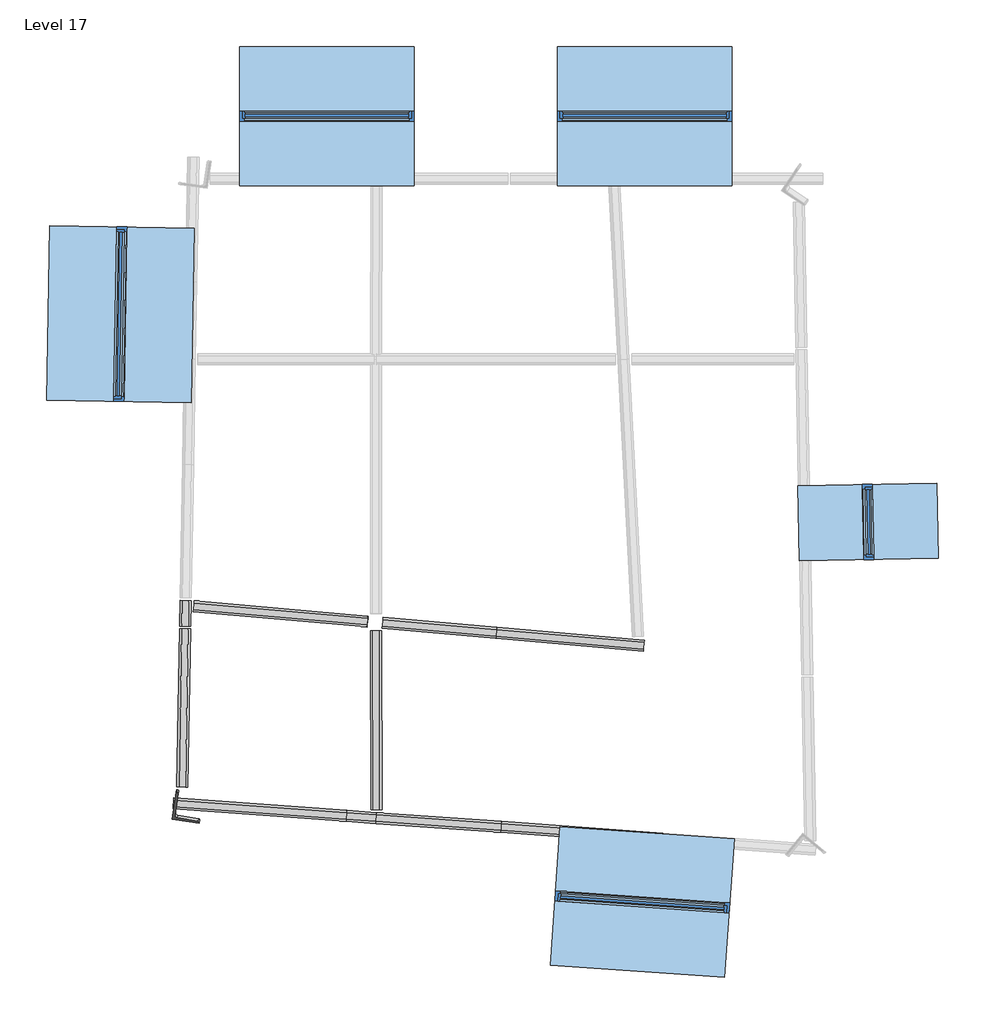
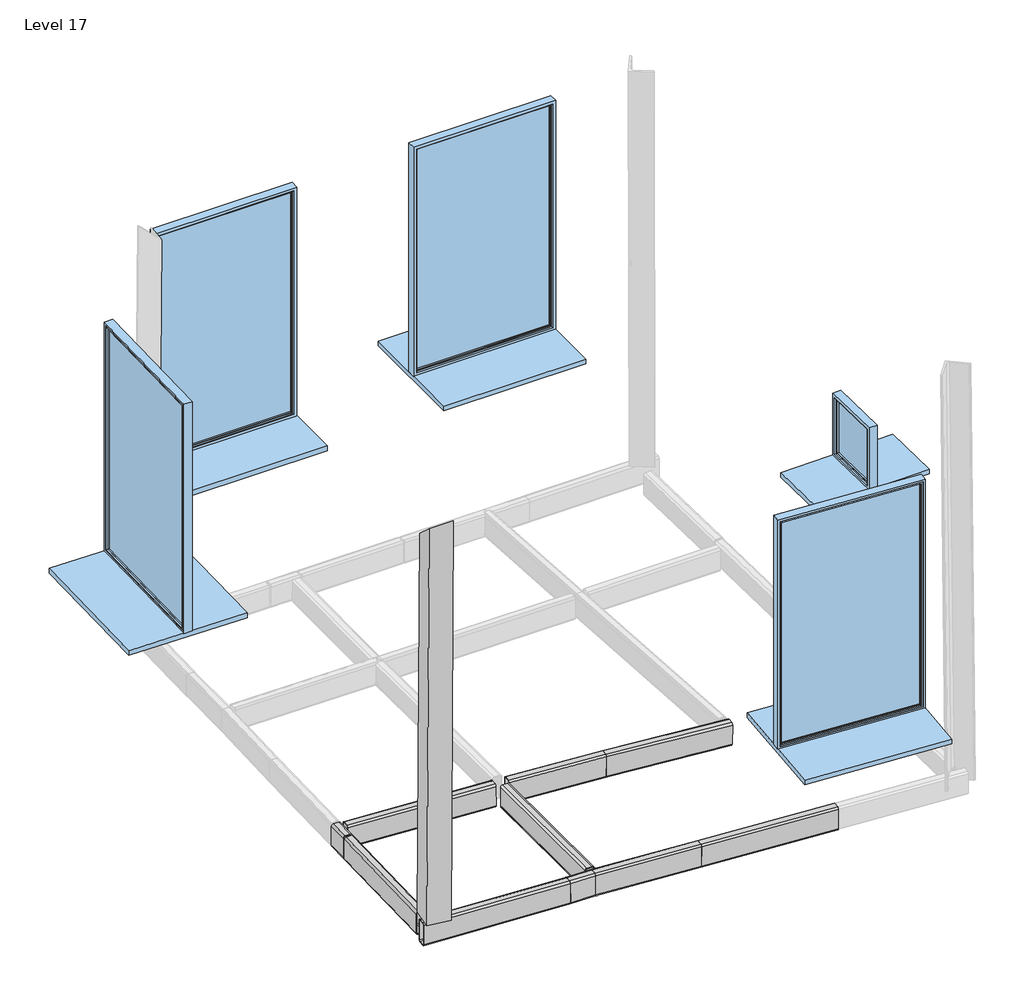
# One storey, part 1 of 3: 11 beams, 5 windows.
"""IFC4 building model written with IfcOpenShell, lengths in millimetres."""

from ifc_helpers import new_model, si_unit, point, frame, frame_2d, origin, place, context, project, spatial, polyline, circle_curve, ellipse_curve, trimmed, segment, composite_curve, outline, extrude, transform, mapped, element, save
from ifc_brep_helpers import plane_surface, cylinder_surface, revolved_surface, advanced_brep
from components import rectangular_and_square_hollow_sections_489ac4a4, rectangular_and_square_hollow_sections_62294a34, rectangular_and_square_hollow_sections_82481f7e, rectangular_and_square_hollow_sections_5330a2fb, rectangular_and_square_hollow_sections_e82c769e, rectangular_and_square_hollow_sections_2dbff78a, rectangular_and_square_hollow_sections_c000528f, finestra_semplice_3rd_window_0_95x1_62_2_eac4eb58, finestra_semplice_3rd_window_0_95x1_62_2_18a6eb5c, finestra_semplice_small_window_0_44x0_41_8847f569

model = new_model("IFC4")

# Units and contexts
model_context = context("Model", 3, world=origin())
ifc_project = project(units=[si_unit("LENGTHUNIT", "METRE", prefix="MILLI")], contexts=[model_context])

# Site, building, storey
site = spatial("IfcSite", under=ifc_project)
building = spatial("IfcBuilding", under=site)
storey = spatial("IfcBuildingStorey", under=building, Name="Level 17", Elevation=2886.4344134)

# Beams
placement = place(None, origin())
element("IfcBeam", 1, ObjectType="L ali uguali : L120x10", at=placement, inside=storey, context=model_context, shape_type="AdvancedBrep", body=[
    advanced_brep(
    [(-900.4703618, -1266.7579064, 2953.7996508), (-877.8577021, -1118.4835239, 2955.6367933), (-873.903422, -1119.0865734, 2955.6367933), (-867.2008703, -1128.2006394, 2955.5388123), (-884.3864917, -1240.8891702, 2954.142584), (-870.9813882, -1259.1173023, 2953.9466222), (-758.2844046, -1276.3042128, 2953.9466222), (-751.5818529, -1285.4182788, 2953.8486412), (-752.1848571, -1289.3722623, 2953.7996508), (-757.4428815, -1323.849866, 5801.1799678), (-905.6966723, -1301.0275576, 5784.005925), (-876.1936188, -1293.2946294, 5776.5281957), (-763.5207377, -1310.6395838, 5789.5804683), (-889.568673, -1274.8694601, 5760.4515636), (-872.1930531, -1160.9350827, 5658.9578328), (-882.8340146, -1151.1139031, 5650.4615423), (-756.8332106, -1319.8521685, 5797.6187843), (-878.8805802, -1151.722498, 5650.9195168)],
    [
        (0, 1),
        (1, 2),
        (2, 3, circle_curve(frame((-875.1094305, -1126.9945404, 2955.5388123), z_axis=(0.0018464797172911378, 0.012107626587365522, -0.9999249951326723), x_axis=(0.9885700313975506, -0.15076237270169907, 0.0)), 8.0)),
        (3, 4),
        (4, 5, circle_curve(frame((-868.5693712, -1243.3013681, 2954.142584), z_axis=(-0.0018464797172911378, -0.012107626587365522, 0.9999249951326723), x_axis=(0.9885700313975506, -0.15076237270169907, 0.0)), 16.0)),
        (5, 6),
        (6, 7, circle_curve(frame((-759.4904131, -1284.2121798, 2953.8486412), z_axis=(0.0018464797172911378, 0.012107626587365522, -0.9999249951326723), x_axis=(0.9885700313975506, -0.15076237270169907, 0.0)), 8.0)),
        (7, 8),
        (8, 0),
        (9, 10),
        (10, 0),
        (8, 9),
        (11, 12),
        (12, 6),
        (5, 11),
        (13, 11, ellipse_curve(frame((-873.7549353, -1277.3038396, 5762.2834615), z_axis=(0.015554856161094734, 0.6637600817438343, 0.7477837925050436), x_axis=(0.01983990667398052, 0.7475221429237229, -0.6639405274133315)), 21.6314896, 16.0)),
        (4, 13),
        (14, 13),
        (3, 14),
        (10, 15),
        (15, 1),
        (16, 9),
        (7, 16),
        (12, 16, ellipse_curve(frame((-764.7400795, -1318.6349787, 5796.7028353), z_axis=(-0.015554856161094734, -0.6637600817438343, -0.7477837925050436), x_axis=(-0.01983990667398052, -0.7475221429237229, 0.6639405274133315)), 10.8157448, 8.0)),
        (17, 14, ellipse_curve(frame((-880.0999219, -1159.7178929, 5658.0418839), z_axis=(-0.015554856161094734, -0.6637600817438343, -0.7477837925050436), x_axis=(-0.01983990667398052, -0.7475221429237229, 0.6639405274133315)), 10.8157448, 8.0)),
        (2, 17),
        (15, 17),
    ],
    [
        plane_surface(frame((-853.5303327, -1232.2432858, 2954.3042526), z_axis=(0.0018464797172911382, 0.012107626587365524, -0.9999249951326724), x_axis=(0.15075106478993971, 0.9884958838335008, 0.012247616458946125))),
        plane_surface(frame((-905.5875111, -1300.311772, 5724.8917898), z_axis=(-0.15075106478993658, -0.9884958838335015, -0.012247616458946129), x_axis=(0.0018464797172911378, 0.012107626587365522, -0.9999249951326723))),
        plane_surface(frame((-763.4015538, -1309.8580783, 5725.0387612), z_axis=(0.15075106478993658, 0.9884958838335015, 0.012247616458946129), x_axis=(0.0018464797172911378, 0.012107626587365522, -0.9999249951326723))),
        revolved_surface(polyline([(-852.7522506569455, -1245.713566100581, 2954.1425839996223), (-857.964694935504, -1279.892294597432, 5776.839887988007)]), (-873.6865204, -1276.8552337, 5725.2347231), (0.0018464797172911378, 0.012107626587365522, -0.9999249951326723)),
        plane_surface(frame((-889.5036409, -1274.4430357, 5725.2347231), z_axis=(0.9885700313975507, -0.1507623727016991, 0.0), x_axis=(0.0018464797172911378, 0.012107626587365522, -0.9999249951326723))),
        plane_surface(frame((-882.9748514, -1152.0373894, 5726.7289323), z_axis=(-0.9885700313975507, 0.1507623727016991, 0.0), x_axis=(0.0018464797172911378, 0.012107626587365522, -0.9999249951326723))),
        plane_surface(frame((-757.3020064, -1322.9261279, 5724.8917898), z_axis=(0.9885700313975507, -0.1507623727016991, 0.0), x_axis=(0.0018464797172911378, 0.012107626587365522, -0.9999249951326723))),
        cylinder_surface(frame((-764.6075624, -1317.7660454, 5724.9407803), z_axis=(-0.0018464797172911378, -0.012107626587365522, 0.9999249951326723), x_axis=(0.9885700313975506, -0.15076237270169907, 0.0)), 8.0),
        cylinder_surface(frame((-880.2265798, -1160.548406, 5726.6309513), z_axis=(-0.0018464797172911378, -0.012107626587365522, 0.9999249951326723), x_axis=(0.9885700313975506, -0.15076237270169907, 0.0)), 8.0),
        plane_surface(frame((-879.0205712, -1152.6404389, 5726.7289323), z_axis=(0.15075106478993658, 0.9884958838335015, 0.012247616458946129), x_axis=(0.0018464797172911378, 0.012107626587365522, -0.9999249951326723))),
        plane_surface(frame((-851.4101687, -1151.9048872, 5650.5099925), z_axis=(0.015554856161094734, 0.6637600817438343, 0.7477837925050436), x_axis=(0.9998790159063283, -0.010325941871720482, -0.011633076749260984))),
    ],
    [
        (0, [[1, 2, 3, 4, 5, 6, 7, 8, 9]]),
        (1, [[10, 11, -9, 12]]),
        (2, [[13, 14, -6, 15]]),
        (3, [[16, -15, -5, 17]]),
        (4, [[18, -17, -4, 19]]),
        (5, [[20, 21, -1, -11]]),
        (6, [[22, -12, -8, 23]]),
        (7, [[24, -23, -7, -14]]),
        (8, [[25, -19, -3, 26]]),
        (9, [[27, -26, -2, -21]]),
        (10, [[-10, -22, -24, -13, -16, -18, -25, -27, -20]]),
    ],
),
])
element("IfcBeam", 2, ObjectType="Rectangular and Square Hollow Sections : TREC160x60x6", at=placement, inside=storey, context=model_context, shape_type="AdvancedBrep", body=[
    advanced_brep(
    [(890.9382495, -1292.3459513, 2937.2240204), (890.1461606, -1304.3199654, 2949.2238364), (887.5710113, -1340.2277445, 2949.2238364), (886.646334, -1352.1922499, 2937.2240204), (885.8950004, -1352.1383676, 2801.2261065), (886.6870894, -1340.1643535, 2789.2262906), (889.2622387, -1304.2565743, 2789.2262906), (890.1869159, -1292.2920689, 2801.2261065), (887.5378642, -1340.2253674, 2943.2239284), (890.1130135, -1304.3175882, 2943.2239284), (890.509058, -1298.3305812, 2937.2240204), (889.7577244, -1298.2766988, 2801.2261065), (889.2953858, -1304.2589515, 2795.2261985), (886.7202365, -1340.1667307, 2795.2261985), (886.324192, -1346.1537377, 2801.2261065), (887.0755256, -1346.2076201, 2937.2240204), (211.6806005, -1243.6325554, 2940.995945), (210.6657061, -1255.5905908, 2952.9969982), (208.0905568, -1291.49837, 2952.9969982), (207.3886851, -1303.478854, 2940.995945), (209.1624803, -1303.6060629, 2804.984009), (210.1773747, -1291.6480275, 2792.9829558), (212.752524, -1255.7402483, 2792.9829558), (213.4543957, -1243.7597642, 2804.984009), (208.1688125, -1291.5039821, 2946.9964716), (210.7439618, -1255.5962029, 2946.9964716), (211.251409, -1249.6171852, 2940.995945), (213.0252042, -1249.7443941, 2804.984009), (212.6742683, -1255.7346361, 2798.9834824), (210.099119, -1291.6424153, 2798.9834824), (209.5916718, -1297.621433, 2804.984009), (207.8178766, -1297.4942242, 2940.995945)],
    [
        (0, 1, circle_curve(frame((890.0798664, -1304.315211, 2937.2240204), z_axis=(0.9974230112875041, -0.07153082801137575, -0.0055387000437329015), x_axis=(-0.0715319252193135, -0.9974383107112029, 0.0)), 12.0)),
        (1, 2),
        (2, 3, circle_curve(frame((887.5047171, -1340.2229902, 2937.2240204), z_axis=(0.9974230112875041, -0.07153082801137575, -0.0055387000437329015), x_axis=(-0.0715319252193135, -0.9974383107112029, 0.0)), 12.0)),
        (3, 4),
        (4, 5, circle_curve(frame((886.7533835, -1340.1691079, 2801.2261065), z_axis=(0.9974230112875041, -0.07153082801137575, -0.0055387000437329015), x_axis=(-0.0715319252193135, -0.9974383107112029, 0.0)), 12.0)),
        (5, 6),
        (6, 7, circle_curve(frame((889.3285328, -1304.2613287, 2801.2261065), z_axis=(0.9974230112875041, -0.07153082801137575, -0.0055387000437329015), x_axis=(-0.0715319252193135, -0.9974383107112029, 0.0)), 12.0)),
        (7, 0),
        (8, 9),
        (9, 10, circle_curve(frame((890.0798664, -1304.315211, 2937.2240204), z_axis=(-0.9974230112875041, 0.07153082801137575, 0.0055387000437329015), x_axis=(-0.0715319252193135, -0.9974383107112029, 0.0)), 6.0)),
        (10, 11),
        (11, 12, circle_curve(frame((889.3285328, -1304.2613287, 2801.2261065), z_axis=(-0.9974230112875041, 0.07153082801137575, 0.0055387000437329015), x_axis=(-0.0715319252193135, -0.9974383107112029, 0.0)), 6.0)),
        (12, 13),
        (13, 14, circle_curve(frame((886.7533835, -1340.1691079, 2801.2261065), z_axis=(-0.9974230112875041, 0.07153082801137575, 0.0055387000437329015), x_axis=(-0.0715319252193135, -0.9974383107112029, 0.0)), 6.0)),
        (14, 15),
        (15, 8, circle_curve(frame((887.5047171, -1340.2229902, 2937.2240204), z_axis=(-0.9974230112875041, 0.07153082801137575, 0.0055387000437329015), x_axis=(-0.0715319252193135, -0.9974383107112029, 0.0)), 6.0)),
        (0, 16),
        (16, 17, ellipse_curve(frame((210.8222174, -1255.6018151, 2940.995945), z_axis=(0.9973530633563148, -0.07152581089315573, 0.013073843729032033), x_axis=(0.013040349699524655, -0.0009352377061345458, -0.9999145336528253)), 12.002079, 12.0)),
        (17, 1),
        (17, 18),
        (18, 2),
        (18, 19, ellipse_curve(frame((208.2470682, -1291.5095943, 2940.995945), z_axis=(0.9973530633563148, -0.07152581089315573, 0.013073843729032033), x_axis=(0.013040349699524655, -0.0009352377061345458, -0.9999145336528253)), 12.002079, 12.0)),
        (19, 3),
        (19, 20),
        (20, 4),
        (20, 21, ellipse_curve(frame((210.0208634, -1291.6368031, 2804.984009), z_axis=(0.9973530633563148, -0.07152581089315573, 0.013073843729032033), x_axis=(0.013040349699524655, -0.0009352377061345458, -0.9999145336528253)), 12.002079, 12.0)),
        (21, 5),
        (21, 22),
        (22, 6),
        (22, 23, ellipse_curve(frame((212.5960127, -1255.729024, 2804.984009), z_axis=(0.9973530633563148, -0.07152581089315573, 0.013073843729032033), x_axis=(0.013040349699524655, -0.0009352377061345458, -0.9999145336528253)), 12.002079, 12.0)),
        (23, 7),
        (23, 16),
        (8, 24),
        (24, 25),
        (25, 9),
        (25, 26, ellipse_curve(frame((210.8222174, -1255.6018151, 2940.995945), z_axis=(-0.9973530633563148, 0.07152581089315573, -0.013073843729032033), x_axis=(-0.013040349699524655, 0.0009352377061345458, 0.9999145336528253)), 6.0010395, 6.0)),
        (26, 10),
        (26, 27),
        (27, 11),
        (27, 28, ellipse_curve(frame((212.5960127, -1255.729024, 2804.984009), z_axis=(-0.9973530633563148, 0.07152581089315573, -0.013073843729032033), x_axis=(-0.013040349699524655, 0.0009352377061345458, 0.9999145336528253)), 6.0010395, 6.0)),
        (28, 12),
        (28, 29),
        (29, 13),
        (29, 30, ellipse_curve(frame((210.0208634, -1291.6368031, 2804.984009), z_axis=(-0.9973530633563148, 0.07152581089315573, -0.013073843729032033), x_axis=(-0.013040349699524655, 0.0009352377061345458, 0.9999145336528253)), 6.0010395, 6.0)),
        (30, 14),
        (30, 31),
        (31, 15),
        (31, 24, ellipse_curve(frame((208.2470682, -1291.5095943, 2940.995945), z_axis=(-0.9973530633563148, 0.07152581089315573, -0.013073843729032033), x_axis=(-0.013040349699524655, 0.0009352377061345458, 0.9999145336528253)), 6.0010395, 6.0)),
    ],
    [
        plane_surface(frame((888.416625, -1322.2421594, 2869.2250635), z_axis=(0.9974230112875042, -0.07153082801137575, -0.005538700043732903), x_axis=(0.005524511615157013, -0.00039619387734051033, 0.9999846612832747))),
        cylinder_surface(frame((890.0798664, -1304.315211, 2937.2240204), z_axis=(0.9974230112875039, -0.07153082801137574, -0.005538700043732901), x_axis=(-0.0715319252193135, -0.9974383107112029, 0.0)), 12.0),
        plane_surface(frame((890.1461606, -1304.3199654, 2949.2238364), z_axis=(0.005524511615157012, -0.0003961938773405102, 0.9999846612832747), x_axis=(-0.9974230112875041, 0.07153082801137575, 0.0055387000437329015))),
        cylinder_surface(frame((887.5047171, -1340.2229902, 2937.2240204), z_axis=(0.9974230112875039, -0.07153082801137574, -0.005538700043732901), x_axis=(-0.0715319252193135, -0.9974383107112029, 0.0)), 12.0),
        plane_surface(frame((886.646334, -1352.1922499, 2937.2240204), z_axis=(-0.07153192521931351, -0.9974383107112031, 0.0), x_axis=(-0.9974230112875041, 0.07153082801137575, 0.0055387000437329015))),
        cylinder_surface(frame((886.7533835, -1340.1691079, 2801.2261065), z_axis=(0.9974230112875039, -0.07153082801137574, -0.005538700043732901), x_axis=(-0.0715319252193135, -0.9974383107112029, 0.0)), 12.0),
        plane_surface(frame((886.6870894, -1340.1643535, 2789.2262906), z_axis=(-0.005524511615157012, 0.0003961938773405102, -0.9999846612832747), x_axis=(-0.9974230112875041, 0.07153082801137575, 0.0055387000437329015))),
        cylinder_surface(frame((889.3285328, -1304.2613287, 2801.2261065), z_axis=(0.9974230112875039, -0.07153082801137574, -0.005538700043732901), x_axis=(-0.0715319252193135, -0.9974383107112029, 0.0)), 12.0),
        plane_surface(frame((890.1869159, -1292.2920689, 2801.2261065), z_axis=(0.07153192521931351, 0.9974383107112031, 0.0), x_axis=(-0.9974230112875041, 0.07153082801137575, 0.0055387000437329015))),
        plane_surface(frame((887.5378642, -1340.2253674, 2943.2239284), z_axis=(-0.005524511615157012, 0.0003961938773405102, -0.9999846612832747), x_axis=(-0.9974230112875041, 0.07153082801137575, 0.0055387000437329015))),
        revolved_surface(polyline([(210.28162311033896, -1261.5784556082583, 2940.996563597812), (889.6506749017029, -1310.2998408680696, 2937.2240203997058)]), (890.0798664, -1304.315211, 2937.2240204), (-0.9974230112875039, 0.07153082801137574, 0.005538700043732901)),
        plane_surface(frame((890.509058, -1298.3305812, 2937.2240204), z_axis=(-0.07153192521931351, -0.9974383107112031, 0.0), x_axis=(-0.9974230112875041, 0.07153082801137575, 0.0055387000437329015))),
        revolved_surface(polyline([(212.05541840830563, -1261.7056645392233, 2804.984627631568), (888.8993413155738, -1310.2459585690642, 2801.2261064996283)]), (889.3285328, -1304.2613287, 2801.2261065), (-0.9974230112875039, 0.07153082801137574, 0.005538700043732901)),
        plane_surface(frame((889.2953858, -1304.2589515, 2795.2261985), z_axis=(0.005524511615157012, -0.0003961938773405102, 0.9999846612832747), x_axis=(-0.9974230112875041, 0.07153082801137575, 0.0055387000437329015))),
        revolved_surface(polyline([(209.48026910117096, -1297.6134437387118, 2804.9846276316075), (886.3241920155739, -1346.1537377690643, 2801.2261064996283)]), (886.7533835, -1340.1691079, 2801.2261065), (-0.9974230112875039, 0.07153082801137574, 0.005538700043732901)),
        plane_surface(frame((886.324192, -1346.1537377, 2801.2261065), z_axis=(0.07153192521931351, 0.9974383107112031, 0.0), x_axis=(-0.9974230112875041, 0.07153082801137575, 0.0055387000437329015))),
        revolved_surface(polyline([(207.7064738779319, -1297.4862348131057, 2940.9965635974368), (887.0755256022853, -1346.207620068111, 2937.224020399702)]), (887.5047171, -1340.2229902, 2937.2240204), (-0.9974230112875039, 0.07153082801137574, 0.005538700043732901)),
        plane_surface(frame((211.4649491, -1273.6941411, 2792.9829546), z_axis=(-0.997353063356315, 0.07152581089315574, -0.013073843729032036), x_axis=(0.07271084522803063, 0.9810982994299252, -0.17933003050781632))),
    ],
    [
        (0, [[1, 2, 3, 4, 5, 6, 7, 8], [9, 10, 11, 12, 13, 14, 15, 16]]),
        (1, [[-1, 17, 18, 19]]),
        (2, [[-2, -19, 20, 21]]),
        (3, [[-3, -21, 22, 23]]),
        (4, [[-4, -23, 24, 25]]),
        (5, [[-5, -25, 26, 27]]),
        (6, [[-6, -27, 28, 29]]),
        (7, [[-7, -29, 30, 31]]),
        (8, [[-8, -31, 32, -17]]),
        (9, [[-9, 33, 34, 35]]),
        (10, [[-10, -35, 36, 37]]),
        (11, [[-11, -37, 38, 39]]),
        (12, [[-12, -39, 40, 41]]),
        (13, [[-13, -41, 42, 43]]),
        (14, [[-14, -43, 44, 45]]),
        (15, [[-15, -45, 46, 47]]),
        (16, [[-16, -47, 48, -33]]),
        (17, [[-32, -30, -28, -26, -24, -22, -20, -18], [-48, -46, -44, -42, -40, -38, -36, -34]]),
    ],
),
])
element("IfcBeam", 3, ObjectType="Rectangular and Square Hollow Sections : TREC160x60x6", at=placement, inside=storey, context=model_context, shape_type="SweptSolid", body=[
    extrude(outline(composite_curve([segment(trimmed(circle_curve(frame_2d((23.2337653, -66.3942178)), 12.0), [point((35.1974223, -65.4609919))], [point((24.1669912, -78.3578748))], False, "CARTESIAN"), True, "CONTINUOUS"), segment(polyline([(24.1669912, -78.3578748), (-11.7239799, -81.1575523)]), True, "CONTINUOUS"), segment(trimmed(circle_curve(frame_2d((-12.6572058, -69.1938953)), 12.0), [point((-11.7239799, -81.1575523))], [point((-24.6208628, -70.1271212))], False, "CARTESIAN"), True, "CONTINUOUS"), segment(polyline([(-24.6208628, -70.1271212), (-35.1974224, 65.4609919)]), True, "CONTINUOUS"), segment(trimmed(circle_curve(frame_2d((-23.2337654, 66.3942178)), 12.0), [point((-35.1974224, 65.4609919))], [point((-24.1669912, 78.3578748))], False, "CARTESIAN"), True, "CONTINUOUS"), segment(polyline([(-24.1669912, 78.3578748), (11.7239799, 81.1575523)]), True, "CONTINUOUS"), segment(trimmed(circle_curve(frame_2d((12.6572057, 69.1938953)), 12.0), [point((11.7239799, 81.1575523))], [point((24.6208628, 70.1271212))], False, "CARTESIAN"), True, "CONTINUOUS"), segment(polyline([(24.6208628, 70.1271212), (35.1974223, -65.4609919)]), True, "CONTINUOUS")], self_intersect=False), holes=[composite_curve([segment(polyline([(-12.1905929, -75.1757238), (23.7003782, -72.3760463)]), True, "CONTINUOUS"), segment(trimmed(circle_curve(frame_2d((23.2337653, -66.3942178)), 6.0), [point((23.7003782, -72.3760463))], [point((29.2155939, -65.9276048))], True, "CARTESIAN"), True, "CONTINUOUS"), segment(polyline([(29.2155939, -65.9276048), (18.6390342, 69.6605082)]), True, "CONTINUOUS"), segment(trimmed(circle_curve(frame_2d((12.6572057, 69.1938953)), 6.0), [point((18.6390342, 69.6605082))], [point((12.1905928, 75.1757238))], True, "CARTESIAN"), True, "CONTINUOUS"), segment(polyline([(12.1905928, 75.1757238), (-23.7003783, 72.3760463)]), True, "CONTINUOUS"), segment(trimmed(circle_curve(frame_2d((-23.2337654, 66.3942178)), 6.0), [point((-23.7003783, 72.3760463))], [point((-29.2155939, 65.9276048))], True, "CARTESIAN"), True, "CONTINUOUS"), segment(polyline([(-29.2155939, 65.9276048), (-18.6390342, -69.6605082)]), True, "CONTINUOUS"), segment(trimmed(circle_curve(frame_2d((-12.6572058, -69.1938953)), 6.0), [point((-18.6390342, -69.6605082))], [point((-12.1905929, -75.1757238))], True, "CARTESIAN"), True, "CONTINUOUS")], self_intersect=False)]), frame((1768.8794504, -1385.3851131, 2864.286146), z_axis=(-0.9974227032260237, 0.07153080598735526, 0.005594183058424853), x_axis=(0.07174922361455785, 0.9943863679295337, 0.07776760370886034)), (0.0, 0.0, 1.0), 882.3575288),
])
element("IfcBeam", 4, ObjectType="Rectangular and Square Hollow Sections : TREC160x60x6", at=placement, inside=storey, context=model_context, shape_type="AdvancedBrep", body=[
    advanced_brep(
    [(210.6657061, -1255.5905908, 2952.9969982), (211.6806005, -1243.6325554, 2940.995945), (48.4540454, -1231.926659, 2935.8087392), (47.359416, -1243.8789762, 2947.8072584), (208.0905568, -1291.49837, 2952.9969982), (44.7842667, -1279.7867554, 2947.8072584), (207.3886851, -1303.478854, 2940.995945), (44.1621299, -1291.7729577, 2935.8087392), (209.1624803, -1303.6060629, 2804.984009), (46.8395874, -1291.9649732, 2799.8255208), (210.1773747, -1291.6480275, 2792.9829558), (47.9342168, -1280.0126561, 2787.8270016), (212.752524, -1255.7402483, 2792.9829558), (50.5093661, -1244.1048769, 2787.8270016), (213.4543957, -1243.7597642, 2804.984009), (51.1315029, -1232.1186746, 2799.8255208), (210.7439618, -1255.5962029, 2946.9964716), (208.1688125, -1291.5039821, 2946.9964716), (44.9023899, -1279.7952267, 2941.8079988), (47.4775392, -1243.8874475, 2941.8079988), (211.251409, -1249.6171852, 2940.995945), (48.0248538, -1237.9112889, 2935.8087392), (213.0252042, -1249.7443941, 2804.984009), (50.7023114, -1238.1033044, 2799.8255208), (212.6742683, -1255.7346361, 2798.9834824), (50.391243, -1244.0964056, 2793.8262612), (210.099119, -1291.6424153, 2798.9834824), (47.8160937, -1280.0041848, 2793.8262612), (209.5916718, -1297.621433, 2804.984009), (47.268779, -1285.9803434, 2799.8255208), (207.8178766, -1297.4942242, 2940.995945), (44.5913214, -1285.7883278, 2935.8087392)],
    [
        (0, 1, ellipse_curve(frame((210.8222174, -1255.6018151, 2940.995945), z_axis=(-0.9973530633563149, 0.07152581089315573, -0.013073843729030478), x_axis=(-0.013040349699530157, 0.0009352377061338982, 0.9999145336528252)), 12.002079, 12.0)),
        (1, 2),
        (2, 3, ellipse_curve(frame((47.5956623, -1243.8959187, 2935.8087392), z_axis=(0.9972440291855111, -0.07151799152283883, 0.019736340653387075), x_axis=(-0.019685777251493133, 0.0014118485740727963, 0.9998052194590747)), 12.0008568, 12.0)),
        (3, 0),
        (4, 0),
        (3, 5),
        (5, 4),
        (6, 4, ellipse_curve(frame((208.2470682, -1291.5095943, 2940.995945), z_axis=(-0.9973530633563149, 0.07152581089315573, -0.013073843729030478), x_axis=(-0.013040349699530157, 0.0009352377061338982, 0.9999145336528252)), 12.002079, 12.0)),
        (5, 7, ellipse_curve(frame((45.020513, -1279.8036979, 2935.8087392), z_axis=(0.9972440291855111, -0.07151799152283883, 0.019736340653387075), x_axis=(-0.019685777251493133, 0.0014118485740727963, 0.9998052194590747)), 12.0008568, 12.0)),
        (7, 6),
        (8, 6),
        (7, 9),
        (9, 8),
        (10, 8, ellipse_curve(frame((210.0208634, -1291.6368031, 2804.984009), z_axis=(-0.9973530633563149, 0.07152581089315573, -0.013073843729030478), x_axis=(-0.013040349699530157, 0.0009352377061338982, 0.9999145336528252)), 12.002079, 12.0)),
        (9, 11, ellipse_curve(frame((47.6979705, -1279.9957135, 2799.8255208), z_axis=(0.9972440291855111, -0.07151799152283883, 0.019736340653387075), x_axis=(-0.019685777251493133, 0.0014118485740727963, 0.9998052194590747)), 12.0008568, 12.0)),
        (11, 10),
        (12, 10),
        (11, 13),
        (13, 12),
        (14, 12, ellipse_curve(frame((212.5960127, -1255.729024, 2804.984009), z_axis=(-0.9973530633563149, 0.07152581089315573, -0.013073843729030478), x_axis=(-0.013040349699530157, 0.0009352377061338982, 0.9999145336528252)), 12.002079, 12.0)),
        (13, 15, ellipse_curve(frame((50.2731198, -1244.0879343, 2799.8255208), z_axis=(0.9972440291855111, -0.07151799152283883, 0.019736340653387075), x_axis=(-0.019685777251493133, 0.0014118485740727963, 0.9998052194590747)), 12.0008568, 12.0)),
        (15, 14),
        (1, 14),
        (15, 2),
        (16, 17),
        (17, 18),
        (18, 19),
        (19, 16),
        (20, 16, ellipse_curve(frame((210.8222174, -1255.6018151, 2940.995945), z_axis=(0.9973530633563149, -0.07152581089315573, 0.013073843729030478), x_axis=(0.013040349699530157, -0.0009352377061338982, -0.9999145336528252)), 6.0010395, 6.0)),
        (19, 21, ellipse_curve(frame((47.5956623, -1243.8959187, 2935.8087392), z_axis=(-0.9972440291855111, 0.07151799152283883, -0.019736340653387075), x_axis=(0.019685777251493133, -0.0014118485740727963, -0.9998052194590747)), 6.0004284, 6.0)),
        (21, 20),
        (22, 20),
        (21, 23),
        (23, 22),
        (24, 22, ellipse_curve(frame((212.5960127, -1255.729024, 2804.984009), z_axis=(0.9973530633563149, -0.07152581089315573, 0.013073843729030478), x_axis=(0.013040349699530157, -0.0009352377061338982, -0.9999145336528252)), 6.0010395, 6.0)),
        (23, 25, ellipse_curve(frame((50.2731198, -1244.0879343, 2799.8255208), z_axis=(-0.9972440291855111, 0.07151799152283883, -0.019736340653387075), x_axis=(0.019685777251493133, -0.0014118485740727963, -0.9998052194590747)), 6.0004284, 6.0)),
        (25, 24),
        (26, 24),
        (25, 27),
        (27, 26),
        (28, 26, ellipse_curve(frame((210.0208634, -1291.6368031, 2804.984009), z_axis=(0.9973530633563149, -0.07152581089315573, 0.013073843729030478), x_axis=(0.013040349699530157, -0.0009352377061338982, -0.9999145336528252)), 6.0010395, 6.0)),
        (27, 29, ellipse_curve(frame((47.6979705, -1279.9957135, 2799.8255208), z_axis=(-0.9972440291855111, 0.07151799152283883, -0.019736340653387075), x_axis=(0.019685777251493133, -0.0014118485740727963, -0.9998052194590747)), 6.0004284, 6.0)),
        (29, 28),
        (30, 28),
        (29, 31),
        (31, 30),
        (17, 30, ellipse_curve(frame((208.2470682, -1291.5095943, 2940.995945), z_axis=(0.9973530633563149, -0.07152581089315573, 0.013073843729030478), x_axis=(0.013040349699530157, -0.0009352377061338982, -0.9999145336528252)), 6.0010395, 6.0)),
        (31, 18, ellipse_curve(frame((45.020513, -1279.8036979, 2935.8087392), z_axis=(-0.9972440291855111, 0.07151799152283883, -0.019736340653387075), x_axis=(0.019685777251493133, -0.0014118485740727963, -0.9998052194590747)), 6.0004284, 6.0)),
    ],
    [
        cylinder_surface(frame((209.42332, -1255.5014923, 2940.9514892), z_axis=(0.9969376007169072, -0.07149601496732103, 0.031681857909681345), x_axis=(-0.07153192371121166, -0.9974383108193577, 0.0)), 12.0),
        plane_surface(frame((209.0441116, -1255.4742971, 2952.9454652), z_axis=(-0.031600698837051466, 0.002266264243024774, 0.9994980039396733), x_axis=(-0.9969376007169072, 0.07149601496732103, -0.031681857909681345))),
        cylinder_surface(frame((206.8481707, -1291.4092715, 2940.9514892), z_axis=(0.9969376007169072, -0.07149601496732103, 0.031681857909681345), x_axis=(-0.07153192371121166, -0.9974383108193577, 0.0)), 12.0),
        plane_surface(frame((205.9897876, -1303.3785312, 2940.9514892), z_axis=(-0.07153192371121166, -0.9974383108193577, 0.0), x_axis=(-0.9969376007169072, 0.07149601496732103, -0.031681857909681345))),
        cylinder_surface(frame((211.1458658, -1291.7174834, 2805.0197607), z_axis=(0.9969376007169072, -0.07149601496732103, 0.031681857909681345), x_axis=(-0.07153192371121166, -0.9974383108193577, 0.0)), 12.0),
        plane_surface(frame((211.5250741, -1291.7446786, 2793.0257846), z_axis=(0.031600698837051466, -0.002266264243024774, -0.9994980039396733), x_axis=(-0.9969376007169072, 0.07149601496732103, -0.031681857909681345))),
        cylinder_surface(frame((213.721015, -1255.8097042, 2805.0197607), z_axis=(0.9969376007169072, -0.07149601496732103, 0.031681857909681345), x_axis=(-0.07153192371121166, -0.9974383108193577, 0.0)), 12.0),
        plane_surface(frame((214.5793981, -1243.8404445, 2805.0197607), z_axis=(0.07153192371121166, 0.9974383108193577, 0.0), x_axis=(-0.9969376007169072, 0.07149601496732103, -0.031681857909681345))),
        plane_surface(frame((206.6585665, -1291.3956739, 2946.9484772), z_axis=(0.031600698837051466, -0.002266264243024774, -0.9994980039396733), x_axis=(-0.9969376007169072, 0.07149601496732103, -0.031681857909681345))),
        revolved_surface(polyline([(47.09498968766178, -1249.8754223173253, 2935.8064675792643), (210.50437444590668, -1261.594430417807, 2940.999483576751)]), (209.42332, -1255.5014923, 2940.9514892), (-0.9969376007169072, 0.07149601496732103, -0.031681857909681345)),
        plane_surface(frame((209.8525115, -1249.5168624, 2940.9514892), z_axis=(-0.07153192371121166, -0.9974383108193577, 0.0), x_axis=(-0.9969376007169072, 0.07149601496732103, -0.031681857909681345))),
        revolved_surface(polyline([(49.772447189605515, -1250.0674378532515, 2799.8232492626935), (212.27816968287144, -1261.7216392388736, 2804.9875476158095)]), (213.721015, -1255.8097042, 2805.0197607), (-0.9969376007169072, 0.07149601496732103, -0.031681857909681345)),
        plane_surface(frame((213.9106192, -1255.8233018, 2799.0227726), z_axis=(-0.031600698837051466, 0.002266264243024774, 0.9994980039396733), x_axis=(-0.9969376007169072, 0.07149601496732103, -0.031681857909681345))),
        revolved_surface(polyline([(47.19729789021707, -1285.9752170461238, 2799.823249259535), (209.70302037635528, -1297.6294184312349, 2804.9875476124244)]), (211.1458658, -1291.7174834, 2805.0197607), (-0.9969376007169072, 0.07149601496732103, -0.031681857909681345)),
        plane_surface(frame((210.7166742, -1297.7021133, 2805.0197607), z_axis=(0.07153192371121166, 0.9974383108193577, 0.0), x_axis=(-0.9969376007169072, 0.07149601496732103, -0.031681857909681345))),
        revolved_surface(polyline([(44.51984038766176, -1285.783201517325, 2935.8064675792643), (207.92922517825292, -1297.5022096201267, 2940.9994835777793)]), (206.8481707, -1291.4092715, 2940.9514892), (-0.9969376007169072, 0.07149601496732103, -0.031681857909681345)),
        plane_surface(frame((46.0718417, -1261.8328602, 2947.8072606), z_axis=(-0.9972440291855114, 0.07151799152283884, -0.01973634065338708), x_axis=(0.07419128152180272, 0.9613109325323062, -0.2652865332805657))),
        plane_surface(frame((209.3781317, -1273.5444771, 2952.9969994), z_axis=(0.9973530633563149, -0.07152581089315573, 0.013073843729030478), x_axis=(0.07271084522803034, 0.981098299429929, -0.1793300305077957))),
    ],
    [
        (0, [[1, 2, 3, 4]]),
        (1, [[5, -4, 6, 7]]),
        (2, [[8, -7, 9, 10]]),
        (3, [[11, -10, 12, 13]]),
        (4, [[14, -13, 15, 16]]),
        (5, [[17, -16, 18, 19]]),
        (6, [[20, -19, 21, 22]]),
        (7, [[23, -22, 24, -2]]),
        (8, [[25, 26, 27, 28]]),
        (9, [[29, -28, 30, 31]]),
        (10, [[32, -31, 33, 34]]),
        (11, [[35, -34, 36, 37]]),
        (12, [[38, -37, 39, 40]]),
        (13, [[41, -40, 42, 43]]),
        (14, [[44, -43, 45, 46]]),
        (15, [[47, -46, 48, -26]]),
        (16, [[-24, -21, -18, -15, -12, -9, -6, -3], [-48, -45, -42, -39, -36, -33, -30, -27]]),
        (17, [[-1, -5, -8, -11, -14, -17, -20, -23], [-25, -29, -32, -35, -38, -41, -44, -47]]),
    ],
),
])
rectangular_and_square_hollow_sections_shape = rectangular_and_square_hollow_sections_489ac4a4(model_context)
element("IfcBeam", 5, ObjectType="Rectangular and Square Hollow Sections : TREC160x60x6", at=placement, inside=storey, context=model_context, shape_type="MappedRepresentation", body=[
    mapped(rectangular_and_square_hollow_sections_shape, transform((-310.5563221, -162.7772946, 2866.9573785), x_axis=(0.9961495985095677, -0.08687415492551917, 0.011783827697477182), y_axis=(0.08688018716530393, 0.9962187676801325, 0.0), z_axis=(-0.011739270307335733, 0.0010237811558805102, 0.9999305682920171))),
])
rectangular_and_square_hollow_sections_2_shape = rectangular_and_square_hollow_sections_62294a34(model_context)
element("IfcBeam", 6, ObjectType="Rectangular and Square Hollow Sections : TREC160x60x6", at=placement, inside=storey, context=model_context, shape_type="MappedRepresentation", body=[
    mapped(rectangular_and_square_hollow_sections_2_shape, transform((1250.5056494, -299.4970856, 2866.808156), x_axis=(0.9960594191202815, -0.08714390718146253, -0.016479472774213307), y_axis=(0.0871557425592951, 0.9961946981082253, 0.0), z_axis=(0.016416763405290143, -0.0014362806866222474, 0.9998642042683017))),
])
rectangular_and_square_hollow_sections_3_shape = rectangular_and_square_hollow_sections_82481f7e(model_context)
element("IfcBeam", 7, ObjectType="Rectangular and Square Hollow Sections : TREC160x60x6", at=placement, inside=storey, context=model_context, shape_type="MappedRepresentation", body=[
    mapped(rectangular_and_square_hollow_sections_3_shape, transform((-400.3073696, -1229.8204956, 2864.319395), x_axis=(0.9974080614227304, -0.07152975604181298, 0.007788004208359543), y_axis=(0.07153192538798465, 0.9974383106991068, 0.0), z_axis=(-0.007768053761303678, 0.0005570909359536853, 0.999969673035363))),
])
rectangular_and_square_hollow_sections_4_shape = rectangular_and_square_hollow_sections_5330a2fb(model_context)
element("IfcBeam", 8, ObjectType="Rectangular and Square Hollow Sections : TREC160x60x6", at=placement, inside=storey, context=model_context, shape_type="MappedRepresentation", body=[
    mapped(rectangular_and_square_hollow_sections_4_shape, transform((-839.7370221, -713.5923976, 2860.82166), x_axis=(0.017606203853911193, 0.9998449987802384, 0.0), y_axis=(-0.9998449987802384, 0.017606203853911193, 0.0), z_axis=(0.0, 0.0, 1.0))),
])
rectangular_and_square_hollow_sections_5_shape = rectangular_and_square_hollow_sections_e82c769e(model_context)
element("IfcBeam", 9, ObjectType="Rectangular and Square Hollow Sections : TREC160x60x6", at=placement, inside=storey, context=model_context, shape_type="MappedRepresentation", body=[
    mapped(rectangular_and_square_hollow_sections_5_shape, transform((-830.2268566, -173.5162156, 2860.82166), x_axis=(0.017606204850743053, 0.9998449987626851, 0.0), y_axis=(-0.9998449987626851, 0.017606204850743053, 0.0), z_axis=(0.0, 0.0, 1.0))),
])
rectangular_and_square_hollow_sections_6_shape = rectangular_and_square_hollow_sections_2dbff78a(model_context)
element("IfcBeam", 10, ObjectType="Rectangular and Square Hollow Sections : TREC160x60x6", at=placement, inside=storey, context=model_context, shape_type="MappedRepresentation", body=[
    mapped(rectangular_and_square_hollow_sections_6_shape, transform((209.2750604, -740.8155436, 2873.041537), x_axis=(0.0021517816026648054, -0.9999976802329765, -9.677086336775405e-05), y_axis=(0.9999976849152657, 0.0021517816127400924, 0.0), z_axis=(2.0822976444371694e-07, -9.677063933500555e-05, 0.9999999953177))),
])
rectangular_and_square_hollow_sections_7_shape = rectangular_and_square_hollow_sections_c000528f(model_context)
element("IfcBeam", 11, ObjectType="Rectangular and Square Hollow Sections : TREC160x60x6", at=placement, inside=storey, context=model_context, shape_type="MappedRepresentation", body=[
    mapped(rectangular_and_square_hollow_sections_7_shape, transform((535.5856404, -236.8051241, 2873.1558495), x_axis=(0.9961564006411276, -0.08759217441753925, 0.0001908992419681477), y_axis=(0.08759217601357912, 0.9961564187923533, 0.0), z_axis=(-0.0001901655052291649, 1.6721280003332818e-05, 0.9999999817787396))),
])

# Windows
finestra_semplice_3rd_window_0_95x1_62_2_shape = finestra_semplice_3rd_window_0_95x1_62_2_eac4eb58(model_context)
element("IfcWindow", 12, ObjectType="Finestra Semplice : 3rd window 0.95x1.62 2", at=placement, inside=storey, context=model_context, shape_type="MappedRepresentation", body=[
    mapped(finestra_semplice_3rd_window_0_95x1_62_2_shape, transform((1670.9400583, 2553.9879604, 3006.4364748), x_axis=(-1.0, 0.0, 0.0), y_axis=(0.0, -1.0, 0.0), z_axis=(0.0, 0.0, 1.0))),
])
element("IfcWindow", 13, ObjectType="Finestra Semplice : 3rd window 0.95x1.62 2", at=placement, inside=storey, context=model_context, shape_type="MappedRepresentation", body=[
    mapped(finestra_semplice_3rd_window_0_95x1_62_2_shape, transform((-59.0599417, 2553.9879604, 2998.609257), x_axis=(-1.0, 0.0, 0.0), y_axis=(0.0, -1.0, 0.0), z_axis=(0.0, 0.0, 1.0))),
])
element("IfcWindow", 14, ObjectType="Finestra Semplice : 3rd window 0.95x1.62 2", at=placement, inside=storey, context=model_context, shape_type="MappedRepresentation", body=[
    mapped(finestra_semplice_3rd_window_0_95x1_62_2_shape, transform((1658.0419594, -1737.7924931, 2948.297172), x_axis=(0.9975640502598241, -0.06975647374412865, 0.0), y_axis=(0.06975647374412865, 0.9975640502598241, 0.0), z_axis=(0.0, 0.0, 1.0))),
])
finestra_semplice_3rd_window_0_95x1_62_2_2_shape = finestra_semplice_3rd_window_0_95x1_62_2_18a6eb5c(model_context)
element("IfcWindow", 15, ObjectType="Finestra Semplice : 3rd window 0.95x1.62 2", at=placement, inside=storey, context=model_context, shape_type="MappedRepresentation", body=[
    mapped(finestra_semplice_3rd_window_0_95x1_62_2_2_shape, transform((-1191.4329781, 1469.3053405, 2959.596267), x_axis=(-0.01745240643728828, -0.9998476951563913, 0.0), y_axis=(0.9998476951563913, -0.01745240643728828, 0.0), z_axis=(0.0, 0.0, 1.0))),
])
finestra_semplice_small_window_0_44x0_41_shape = finestra_semplice_small_window_0_44x0_41_8847f569(model_context)
element("IfcWindow", 16, ObjectType="Finestra Semplice : small window 0.44x0.41", at=placement, inside=storey, context=model_context, shape_type="MappedRepresentation", body=[
    mapped(finestra_semplice_small_window_0_44x0_41_shape, transform((2895.1775306, 337.5845888, 3066.4344134), x_axis=(-0.017452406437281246, 0.9998476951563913, 0.0), y_axis=(-0.9998476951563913, -0.017452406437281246, 0.0), z_axis=(0.0, 0.0, 1.0))),
])

save(model, "model.ifc")
